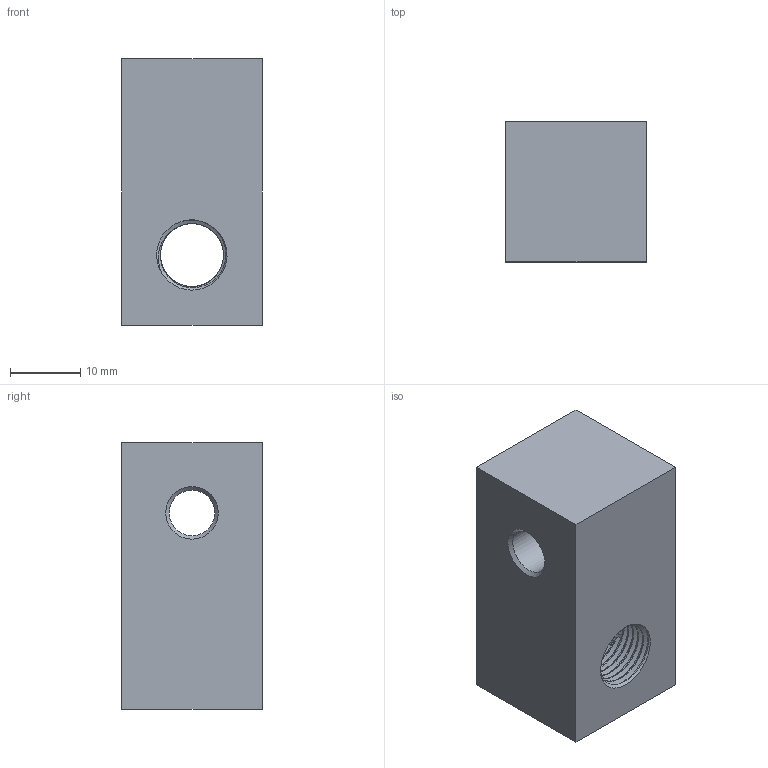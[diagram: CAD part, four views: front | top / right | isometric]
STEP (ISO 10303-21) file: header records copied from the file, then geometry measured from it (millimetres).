
FILE_DESCRIPTION (( 'STEP AP214' ), '1' );
FILE_NAME ('1460_0101_ASL-01.STEP', '2026-01-27T13:06:00', ( '' ), ( '' ), 'SwSTEP 2.0', 'SolidWorks 2022', '' );
FILE_SCHEMA (( 'AUTOMOTIVE_DESIGN' ));
Length unit declared in the file: millimetre
Products named in the file (1): 1460_0101_ASL-01
Bounding box: 20 x 20 x 38 mm (x, y, z)
Volume: 12666.4 mm3; surface area: 5046.9 mm2
Topology: 1 solids, 1 shells, 51 faces, 151 edges, 101 vertices
Faces by surface type: bspline 27, plane 10, cylinder 9, cone 5
Full cylindrical faces by diameter (mm): 6.5 x1
Entity records: 11504 total; most frequent: CARTESIAN_POINT 10492, ORIENTED_EDGE 290, EDGE_CURVE 145, VERTEX_POINT 98, DIRECTION 96, EDGE_LOOP 59, B_SPLINE_CURVE_WITH_KNOTS 59, FACE_OUTER_BOUND 52
